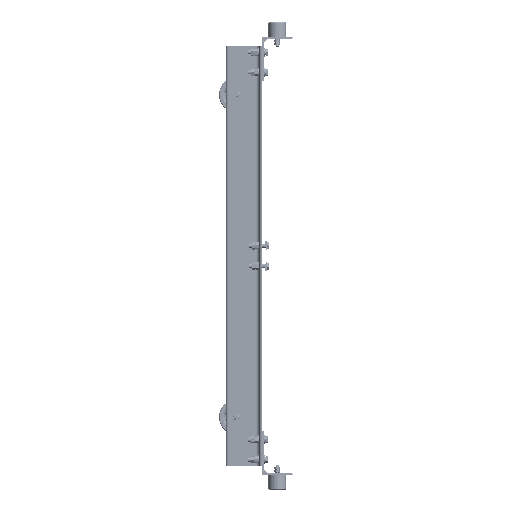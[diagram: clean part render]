
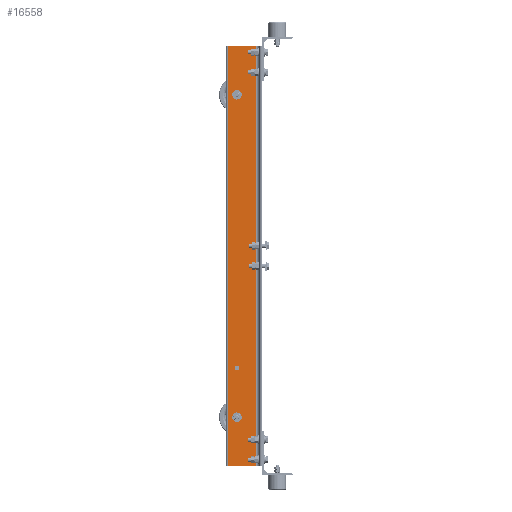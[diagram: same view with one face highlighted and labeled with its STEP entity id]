
A CAD part, left-side view. The second image highlights one B-rep face of the part: STEP entity #16558.
In plain terms, the highlighted planar face has unit normal (-1, 0, 0) as drawn and (1, 0, 0) by its records, which use the part's own axes.
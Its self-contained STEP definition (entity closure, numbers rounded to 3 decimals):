
#62 = CARTESIAN_POINT ( 'NONE',  ( 6.35, 15.875, -596.9 ) ) ;
#214 = ORIENTED_EDGE ( 'NONE', *, *, #20639, .T. ) ;
#320 = CARTESIAN_POINT ( 'NONE',  ( 6.35, 95.255, 596.9 ) ) ;
#925 = VECTOR ( 'NONE', #17059, 1000. ) ;
#938 = VECTOR ( 'NONE', #8542, 1000. ) ;
#1098 = DIRECTION ( 'NONE',  ( 0., 1., 0. ) ) ;
#1325 = LINE ( 'NONE', #14876, #5395 ) ;
#1364 = ORIENTED_EDGE ( 'NONE', *, *, #21057, .T. ) ;
#1542 = CARTESIAN_POINT ( 'NONE',  ( 6.35, 69.85, 457.2 ) ) ;
#1596 = FACE_BOUND ( 'NONE', #2583, .T. ) ;
#1896 = DIRECTION ( 'NONE',  ( 0., -1., 0. ) ) ;
#2583 = EDGE_LOOP ( 'NONE', ( #5228, #214 ) ) ;
#2790 = EDGE_CURVE ( 'NONE', #17532, #18007, #1325, .T. ) ;
#2848 = CIRCLE ( 'NONE', #9925, 6.477 ) ;
#2997 = DIRECTION ( 'NONE',  ( -1., 0., 0. ) ) ;
#3024 = DIRECTION ( 'NONE',  ( 0., -1., 0. ) ) ;
#3472 = ORIENTED_EDGE ( 'NONE', *, *, #10360, .T. ) ;
#4322 = EDGE_CURVE ( 'NONE', #9182, #20190, #21529, .T. ) ;
#4333 = CARTESIAN_POINT ( 'NONE',  ( 6.35, 69.85, 323.977 ) ) ;
#4641 = AXIS2_PLACEMENT_3D ( 'NONE', #21298, #17670, #13082 ) ;
#5228 = ORIENTED_EDGE ( 'NONE', *, *, #4322, .T. ) ;
#5395 = VECTOR ( 'NONE', #1098, 1000. ) ;
#5418 = DIRECTION ( 'NONE',  ( -1., 0., 0. ) ) ;
#5887 = ORIENTED_EDGE ( 'NONE', *, *, #11992, .T. ) ;
#6126 = DIRECTION ( 'NONE',  ( 0., -1., 0. ) ) ;
#6369 = PLANE ( 'NONE',  #19629 ) ;
#7479 = CARTESIAN_POINT ( 'NONE',  ( 6.35, 15.875, 596.9 ) ) ;
#7767 = CARTESIAN_POINT ( 'NONE',  ( 6.35, 69.85, -457.2 ) ) ;
#7814 = CARTESIAN_POINT ( 'NONE',  ( 6.35, 95.255, -596.9 ) ) ;
#8035 = EDGE_CURVE ( 'NONE', #11283, #18482, #19871, .T. ) ;
#8542 = DIRECTION ( 'NONE',  ( 0., 1., 0. ) ) ;
#8694 = CARTESIAN_POINT ( 'NONE',  ( 6.35, 69.85, 457.2 ) ) ;
#8801 = DIRECTION ( 'NONE',  ( 0., -1., 0. ) ) ;
#9182 = VERTEX_POINT ( 'NONE', #4333 ) ;
#9248 = AXIS2_PLACEMENT_3D ( 'NONE', #10283, #15229, #1896 ) ;
#9490 = VERTEX_POINT ( 'NONE', #12010 ) ;
#9805 = ORIENTED_EDGE ( 'NONE', *, *, #2790, .F. ) ;
#9925 = AXIS2_PLACEMENT_3D ( 'NONE', #8694, #5418, #15818 ) ;
#10283 = CARTESIAN_POINT ( 'NONE',  ( 6.35, 69.85, 317.5 ) ) ;
#10360 = EDGE_CURVE ( 'NONE', #18482, #11283, #17776, .T. ) ;
#10395 = LINE ( 'NONE', #18616, #938 ) ;
#10771 = AXIS2_PLACEMENT_3D ( 'NONE', #12803, #12593, #8801 ) ;
#11181 = AXIS2_PLACEMENT_3D ( 'NONE', #1542, #16747, #20229 ) ;
#11283 = VERTEX_POINT ( 'NONE', #14297 ) ;
#11509 = FACE_BOUND ( 'NONE', #16652, .T. ) ;
#11796 = EDGE_LOOP ( 'NONE', ( #20984, #18934, #9805, #5887 ) ) ;
#11992 = EDGE_CURVE ( 'NONE', #17532, #18013, #17655, .T. ) ;
#12010 = CARTESIAN_POINT ( 'NONE',  ( 6.35, 69.85, 463.677 ) ) ;
#12593 = DIRECTION ( 'NONE',  ( -1., 0., 0. ) ) ;
#12803 = CARTESIAN_POINT ( 'NONE',  ( 6.35, 69.85, -457.2 ) ) ;
#13082 = DIRECTION ( 'NONE',  ( 0., -1., 0. ) ) ;
#14107 = CIRCLE ( 'NONE', #4641, 6.477 ) ;
#14165 = DIRECTION ( 'NONE',  ( 0., 0., -1. ) ) ;
#14198 = EDGE_CURVE ( 'NONE', #18007, #20659, #20543, .T. ) ;
#14246 = ORIENTED_EDGE ( 'NONE', *, *, #15471, .T. ) ;
#14297 = CARTESIAN_POINT ( 'NONE',  ( 6.35, 69.85, -463.677 ) ) ;
#14603 = EDGE_CURVE ( 'NONE', #18013, #20659, #10395, .T. ) ;
#14856 = CARTESIAN_POINT ( 'NONE',  ( 6.35, 69.85, 311.023 ) ) ;
#14876 = CARTESIAN_POINT ( 'NONE',  ( 6.35, 95.255, 596.9 ) ) ;
#14916 = FACE_OUTER_BOUND ( 'NONE', #11796, .T. ) ;
#14920 = CARTESIAN_POINT ( 'NONE',  ( 6.35, 95.255, 596.9 ) ) ;
#15229 = DIRECTION ( 'NONE',  ( -1., 0., 0. ) ) ;
#15459 = CARTESIAN_POINT ( 'NONE',  ( 6.35, 95.255, 596.9 ) ) ;
#15471 = EDGE_CURVE ( 'NONE', #9490, #17542, #16109, .T. ) ;
#15818 = DIRECTION ( 'NONE',  ( 0., -1., 0. ) ) ;
#16109 = CIRCLE ( 'NONE', #11181, 6.477 ) ;
#16558 = ADVANCED_FACE ( 'NONE', ( #1596, #11509, #19852, #14916 ), #6369, .F. ) ;
#16652 = EDGE_LOOP ( 'NONE', ( #14246, #1364 ) ) ;
#16747 = DIRECTION ( 'NONE',  ( -1., 0., 0. ) ) ;
#16775 = AXIS2_PLACEMENT_3D ( 'NONE', #7767, #2997, #6126 ) ;
#17059 = DIRECTION ( 'NONE',  ( 0., 0., -1. ) ) ;
#17075 = ORIENTED_EDGE ( 'NONE', *, *, #8035, .T. ) ;
#17532 = VERTEX_POINT ( 'NONE', #21654 ) ;
#17542 = VERTEX_POINT ( 'NONE', #18348 ) ;
#17655 = LINE ( 'NONE', #7479, #19259 ) ;
#17670 = DIRECTION ( 'NONE',  ( -1., 0., 0. ) ) ;
#17776 = CIRCLE ( 'NONE', #16775, 6.477 ) ;
#18007 = VERTEX_POINT ( 'NONE', #14920 ) ;
#18013 = VERTEX_POINT ( 'NONE', #62 ) ;
#18348 = CARTESIAN_POINT ( 'NONE',  ( 6.35, 69.85, 450.723 ) ) ;
#18482 = VERTEX_POINT ( 'NONE', #21369 ) ;
#18616 = CARTESIAN_POINT ( 'NONE',  ( 6.35, 95.255, -596.9 ) ) ;
#18934 = ORIENTED_EDGE ( 'NONE', *, *, #14198, .F. ) ;
#19259 = VECTOR ( 'NONE', #14165, 1000. ) ;
#19629 = AXIS2_PLACEMENT_3D ( 'NONE', #15459, #21620, #3024 ) ;
#19852 = FACE_BOUND ( 'NONE', #20490, .T. ) ;
#19871 = CIRCLE ( 'NONE', #10771, 6.477 ) ;
#20190 = VERTEX_POINT ( 'NONE', #14856 ) ;
#20229 = DIRECTION ( 'NONE',  ( 0., -1., 0. ) ) ;
#20490 = EDGE_LOOP ( 'NONE', ( #3472, #17075 ) ) ;
#20543 = LINE ( 'NONE', #320, #925 ) ;
#20639 = EDGE_CURVE ( 'NONE', #20190, #9182, #14107, .T. ) ;
#20659 = VERTEX_POINT ( 'NONE', #7814 ) ;
#20984 = ORIENTED_EDGE ( 'NONE', *, *, #14603, .T. ) ;
#21057 = EDGE_CURVE ( 'NONE', #17542, #9490, #2848, .T. ) ;
#21298 = CARTESIAN_POINT ( 'NONE',  ( 6.35, 69.85, 317.5 ) ) ;
#21369 = CARTESIAN_POINT ( 'NONE',  ( 6.35, 69.85, -450.723 ) ) ;
#21529 = CIRCLE ( 'NONE', #9248, 6.477 ) ;
#21620 = DIRECTION ( 'NONE',  ( -1., 0., 0. ) ) ;
#21654 = CARTESIAN_POINT ( 'NONE',  ( 6.35, 15.875, 596.9 ) ) ;
